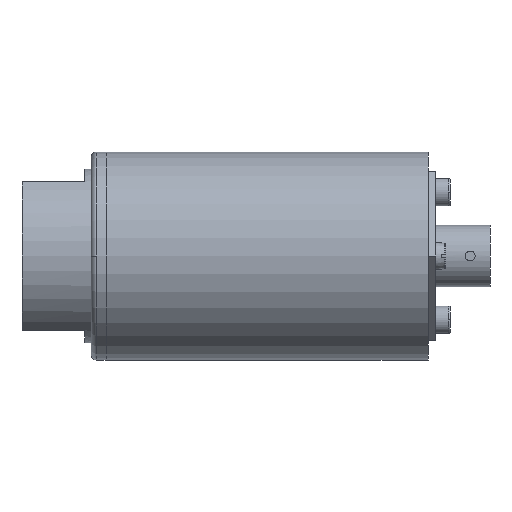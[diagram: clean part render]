
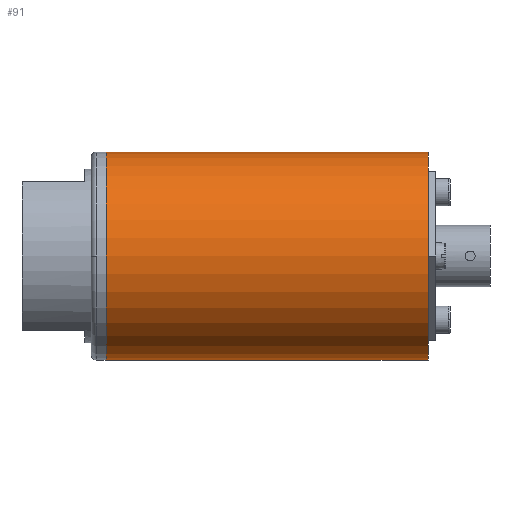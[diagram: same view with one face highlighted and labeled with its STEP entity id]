
A CAD part, front view. The second image highlights one B-rep face of the part: STEP entity #91.
In plain terms, the highlighted cylindrical face has radius 21 mm (diameter 42 mm), a partial arc.
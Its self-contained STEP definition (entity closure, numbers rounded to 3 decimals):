
#91=ADVANCED_FACE('',(#235),#236,.T.);
#235=FACE_OUTER_BOUND('',#511,.T.);
#236=CYLINDRICAL_SURFACE('',#512,21.0);
#511=EDGE_LOOP('',(#880,#881,#882,#883));
#512=AXIS2_PLACEMENT_3D('',#884,#885,#886);
#880=ORIENTED_EDGE('',*,*,#1793,.F.);
#881=ORIENTED_EDGE('',*,*,#1794,.T.);
#882=ORIENTED_EDGE('',*,*,#1795,.F.);
#883=ORIENTED_EDGE('',*,*,#1796,.F.);
#884=CARTESIAN_POINT('',(49.525,0.,0.));
#885=DIRECTION('',(1.0,0.,0.));
#886=DIRECTION('',(0.,0.0,-1.0));
#1793=EDGE_CURVE('',#2143,#2144,#2145,.T.);
#1794=EDGE_CURVE('',#2143,#2146,#2147,.T.);
#1795=EDGE_CURVE('',#2148,#2146,#2149,.T.);
#1796=EDGE_CURVE('',#2144,#2148,#2150,.T.);
#2143=VERTEX_POINT('',#2646);
#2144=VERTEX_POINT('',#2647);
#2145=LINE('',#2648,#2649);
#2146=VERTEX_POINT('',#2650);
#2147=CIRCLE('',#2651,21.0);
#2148=VERTEX_POINT('',#2652);
#2149=LINE('',#2653,#2654);
#2150=CIRCLE('',#2655,21.0);
#2646=CARTESIAN_POINT('',(82.0,0.,-21.0));
#2647=CARTESIAN_POINT('',(17.05,0.,-21.0));
#2648=CARTESIAN_POINT('',(49.525,0.,-21.0));
#2649=VECTOR('',#3868,1.0);
#2650=CARTESIAN_POINT('',(82.0,0.,21.0));
#2651=AXIS2_PLACEMENT_3D('',#3869,#3870,#3871);
#2652=CARTESIAN_POINT('',(17.05,0.,21.0));
#2653=CARTESIAN_POINT('',(49.525,0.,21.0));
#2654=VECTOR('',#3872,1.0);
#2655=AXIS2_PLACEMENT_3D('',#3873,#3874,#3875);
#3868=DIRECTION('',(-1.0,0.,0.));
#3869=CARTESIAN_POINT('',(82.0,0.,0.));
#3870=DIRECTION('',(-1.0,0.,0.));
#3871=DIRECTION('',(0.,0.0,-1.0));
#3872=DIRECTION('',(1.0,0.,0.));
#3873=CARTESIAN_POINT('',(17.05,0.,0.));
#3874=DIRECTION('',(-1.0,0.,0.));
#3875=DIRECTION('',(0.,0.0,-1.0));
